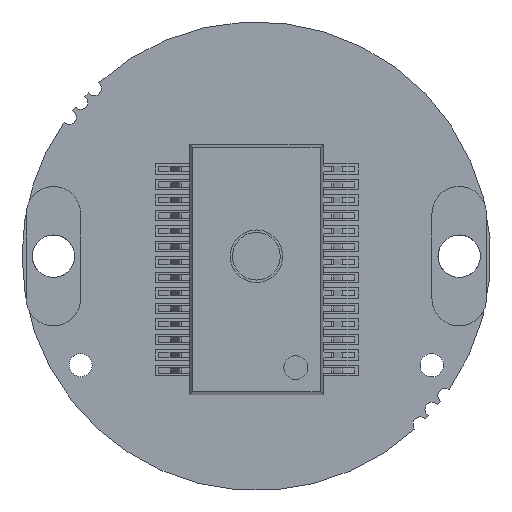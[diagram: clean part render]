
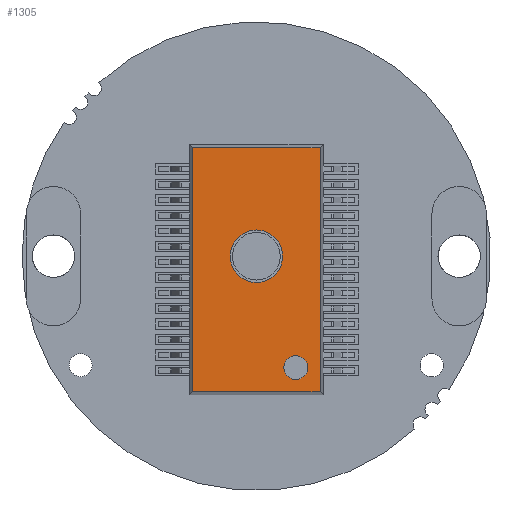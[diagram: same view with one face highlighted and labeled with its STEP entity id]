
A CAD part, front view. The second image highlights one B-rep face of the part: STEP entity #1305.
In plain terms, the highlighted planar face has unit normal (0, -1, 0) as drawn and (0, 0, 1) by its records, which use the part's own axes.
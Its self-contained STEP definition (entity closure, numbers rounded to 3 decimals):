
#450 = VERTEX_POINT ( 'NONE', #18022 ) ;
#720 = VECTOR ( 'NONE', #7954, 1000. ) ;
#1047 = DIRECTION ( 'NONE',  ( 1., 0., 0. ) ) ;
#1305 = ADVANCED_FACE ( 'NONE', ( #1740, #19983, #3150 ), #11393, .T. ) ;
#1454 = LINE ( 'NONE', #20321, #25058 ) ;
#1740 = FACE_BOUND ( 'NONE', #20331, .T. ) ;
#2778 = VERTEX_POINT ( 'NONE', #15321 ) ;
#3022 = CARTESIAN_POINT ( 'NONE',  ( 9.454, 0.131, 0.825 ) ) ;
#3150 = FACE_OUTER_BOUND ( 'NONE', #8342, .T. ) ;
#3299 = VECTOR ( 'NONE', #21110, 1000. ) ;
#3527 = ORIENTED_EDGE ( 'NONE', *, *, #23748, .T. ) ;
#4086 = CIRCLE ( 'NONE', #18112, 1.1 ) ;
#4144 = EDGE_CURVE ( 'NONE', #16291, #12917, #6790, .T. ) ;
#4460 = DIRECTION ( 'NONE',  ( 0., 0., 1. ) ) ;
#4957 = ORIENTED_EDGE ( 'NONE', *, *, #16015, .T. ) ;
#5120 = EDGE_CURVE ( 'NONE', #15611, #16291, #10092, .T. ) ;
#5170 = CARTESIAN_POINT ( 'NONE',  ( 6.005, 2.8, 0.825 ) ) ;
#5912 = EDGE_CURVE ( 'NONE', #2778, #15710, #18292, .T. ) ;
#6502 = DIRECTION ( 'NONE',  ( 1., 0., 0. ) ) ;
#6790 = LINE ( 'NONE', #26731, #720 ) ;
#6997 = CARTESIAN_POINT ( 'NONE',  ( -1.482, -0.309, 0.825 ) ) ;
#7405 = CARTESIAN_POINT ( 'NONE',  ( -0.784, 0.131, 0.825 ) ) ;
#7954 = DIRECTION ( 'NONE',  ( -1., 0., 0. ) ) ;
#8147 = VERTEX_POINT ( 'NONE', #5170 ) ;
#8342 = EDGE_LOOP ( 'NONE', ( #4957, #26567, #20682, #20661 ) ) ;
#8810 = ORIENTED_EDGE ( 'NONE', *, *, #28367, .F. ) ;
#8976 = CARTESIAN_POINT ( 'NONE',  ( 0.232, 1.147, 0.825 ) ) ;
#9369 = VERTEX_POINT ( 'NONE', #7405 ) ;
#10092 = LINE ( 'NONE', #27923, #3299 ) ;
#10764 = CARTESIAN_POINT ( 'NONE',  ( 0.232, 1.147, 0.825 ) ) ;
#11245 = DIRECTION ( 'NONE',  ( 1., 0., 0. ) ) ;
#11393 = PLANE ( 'NONE',  #27275 ) ;
#11627 = VECTOR ( 'NONE', #13396, 1000. ) ;
#12917 = VERTEX_POINT ( 'NONE', #19606 ) ;
#13073 = DIRECTION ( 'NONE',  ( 1., 0., 0. ) ) ;
#13396 = DIRECTION ( 'NONE',  ( 1., 0., 0. ) ) ;
#13618 = DIRECTION ( 'NONE',  ( 0., -1., 0. ) ) ;
#14035 = AXIS2_PLACEMENT_3D ( 'NONE', #8976, #24968, #11245 ) ;
#14485 = CARTESIAN_POINT ( 'NONE',  ( 9.454, 5.469, 0.825 ) ) ;
#14627 = CIRCLE ( 'NONE', #18850, 1.1 ) ;
#14739 = DIRECTION ( 'NONE',  ( 0., 0., 1. ) ) ;
#15321 = CARTESIAN_POINT ( 'NONE',  ( -0.268, 1.147, 0.825 ) ) ;
#15611 = VERTEX_POINT ( 'NONE', #3022 ) ;
#15710 = VERTEX_POINT ( 'NONE', #17210 ) ;
#16015 = EDGE_CURVE ( 'NONE', #12917, #9369, #1454, .T. ) ;
#16234 = ORIENTED_EDGE ( 'NONE', *, *, #5912, .T. ) ;
#16291 = VERTEX_POINT ( 'NONE', #14485 ) ;
#17210 = CARTESIAN_POINT ( 'NONE',  ( 0.732, 1.147, 0.825 ) ) ;
#17708 = EDGE_CURVE ( 'NONE', #9369, #15611, #17741, .T. ) ;
#17741 = LINE ( 'NONE', #22506, #11627 ) ;
#18022 = CARTESIAN_POINT ( 'NONE',  ( 3.805, 2.8, 0.825 ) ) ;
#18112 = AXIS2_PLACEMENT_3D ( 'NONE', #18150, #4460, #20457 ) ;
#18150 = CARTESIAN_POINT ( 'NONE',  ( 4.905, 2.8, 0.825 ) ) ;
#18183 = CIRCLE ( 'NONE', #14035, 0.5 ) ;
#18292 = CIRCLE ( 'NONE', #28437, 0.5 ) ;
#18850 = AXIS2_PLACEMENT_3D ( 'NONE', #28448, #14739, #1047 ) ;
#19519 = EDGE_CURVE ( 'NONE', #8147, #450, #14627, .T. ) ;
#19606 = CARTESIAN_POINT ( 'NONE',  ( -0.784, 5.469, 0.825 ) ) ;
#19983 = FACE_BOUND ( 'NONE', #24028, .T. ) ;
#20321 = CARTESIAN_POINT ( 'NONE',  ( -0.784, 5.6, 0.825 ) ) ;
#20331 = EDGE_LOOP ( 'NONE', ( #27998, #8810 ) ) ;
#20457 = DIRECTION ( 'NONE',  ( 1., 0., 0. ) ) ;
#20661 = ORIENTED_EDGE ( 'NONE', *, *, #4144, .T. ) ;
#20682 = ORIENTED_EDGE ( 'NONE', *, *, #5120, .T. ) ;
#21110 = DIRECTION ( 'NONE',  ( 0., 1., 0. ) ) ;
#22506 = CARTESIAN_POINT ( 'NONE',  ( -0.915, 0.131, 0.825 ) ) ;
#23748 = EDGE_CURVE ( 'NONE', #15710, #2778, #18183, .T. ) ;
#24028 = EDGE_LOOP ( 'NONE', ( #3527, #16234 ) ) ;
#24130 = DIRECTION ( 'NONE',  ( 0., 0., 1. ) ) ;
#24968 = DIRECTION ( 'NONE',  ( 0., 0., -1. ) ) ;
#25058 = VECTOR ( 'NONE', #13618, 1000. ) ;
#26567 = ORIENTED_EDGE ( 'NONE', *, *, #17708, .T. ) ;
#26731 = CARTESIAN_POINT ( 'NONE',  ( -0.915, 5.469, 0.825 ) ) ;
#26784 = DIRECTION ( 'NONE',  ( 0., 0., -1. ) ) ;
#27275 = AXIS2_PLACEMENT_3D ( 'NONE', #6997, #24130, #6502 ) ;
#27923 = CARTESIAN_POINT ( 'NONE',  ( 9.454, 5.6, 0.825 ) ) ;
#27998 = ORIENTED_EDGE ( 'NONE', *, *, #19519, .F. ) ;
#28367 = EDGE_CURVE ( 'NONE', #450, #8147, #4086, .T. ) ;
#28437 = AXIS2_PLACEMENT_3D ( 'NONE', #10764, #26784, #13073 ) ;
#28448 = CARTESIAN_POINT ( 'NONE',  ( 4.905, 2.8, 0.825 ) ) ;
